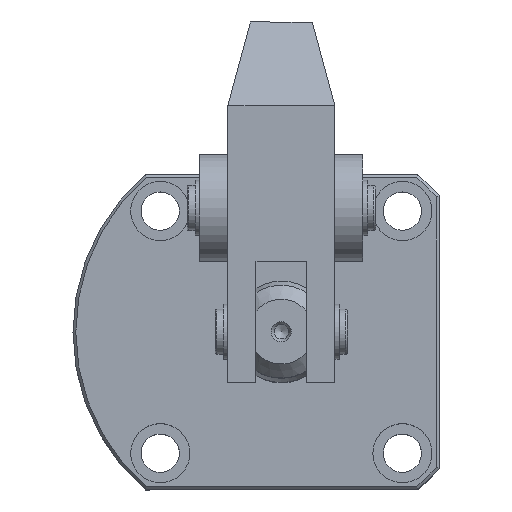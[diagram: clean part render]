
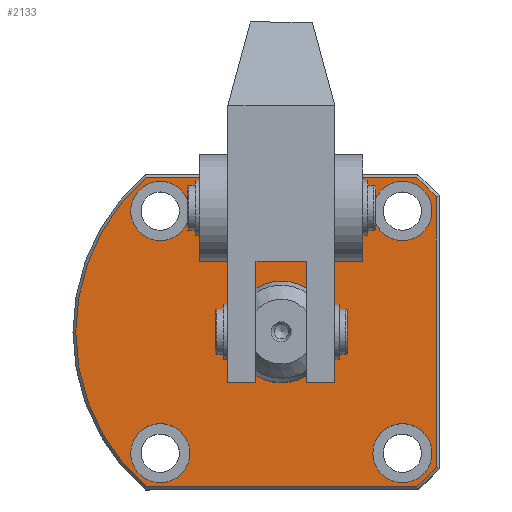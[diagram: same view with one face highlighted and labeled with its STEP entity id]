
A CAD part, top view. The second image highlights one B-rep face of the part: STEP entity #2133.
In plain terms, the highlighted planar face has unit normal (0, 0, 1).
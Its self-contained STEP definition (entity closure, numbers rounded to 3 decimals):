
#134=CIRCLE('',#2370,36.5);
#135=CIRCLE('',#2371,36.5);
#136=CIRCLE('',#2372,36.5);
#137=CIRCLE('',#2373,9.);
#138=CIRCLE('',#2374,5.25);
#139=CIRCLE('',#2375,5.25);
#140=CIRCLE('',#2376,5.25);
#141=CIRCLE('',#2377,5.25);
#359=ORIENTED_EDGE('',*,*,#863,.F.);
#360=ORIENTED_EDGE('',*,*,#850,.T.);
#361=ORIENTED_EDGE('',*,*,#867,.T.);
#362=ORIENTED_EDGE('',*,*,#868,.T.);
#363=ORIENTED_EDGE('',*,*,#869,.T.);
#364=ORIENTED_EDGE('',*,*,#870,.T.);
#365=ORIENTED_EDGE('',*,*,#871,.T.);
#366=ORIENTED_EDGE('',*,*,#872,.T.);
#367=ORIENTED_EDGE('',*,*,#873,.T.);
#368=ORIENTED_EDGE('',*,*,#874,.T.);
#369=ORIENTED_EDGE('',*,*,#875,.T.);
#370=ORIENTED_EDGE('',*,*,#876,.F.);
#371=ORIENTED_EDGE('',*,*,#877,.F.);
#372=ORIENTED_EDGE('',*,*,#878,.F.);
#373=ORIENTED_EDGE('',*,*,#879,.F.);
#850=EDGE_CURVE('',#1114,#1113,#1316,.T.);
#863=EDGE_CURVE('',#1114,#1115,#1327,.T.);
#867=EDGE_CURVE('',#1113,#1117,#1331,.T.);
#868=EDGE_CURVE('',#1117,#1125,#1332,.T.);
#869=EDGE_CURVE('',#1125,#1126,#134,.T.);
#870=EDGE_CURVE('',#1126,#1127,#1333,.T.);
#871=EDGE_CURVE('',#1127,#1128,#135,.T.);
#872=EDGE_CURVE('',#1128,#1129,#1334,.T.);
#873=EDGE_CURVE('',#1129,#1130,#136,.T.);
#874=EDGE_CURVE('',#1130,#1115,#1335,.T.);
#875=EDGE_CURVE('',#1131,#1131,#137,.T.);
#876=EDGE_CURVE('',#1132,#1132,#138,.T.);
#877=EDGE_CURVE('',#1133,#1133,#139,.T.);
#878=EDGE_CURVE('',#1134,#1134,#140,.T.);
#879=EDGE_CURVE('',#1135,#1135,#141,.T.);
#1113=VERTEX_POINT('',#3379);
#1114=VERTEX_POINT('',#3381);
#1115=VERTEX_POINT('',#3385);
#1117=VERTEX_POINT('',#3388);
#1125=VERTEX_POINT('',#3418);
#1126=VERTEX_POINT('',#3420);
#1127=VERTEX_POINT('',#3422);
#1128=VERTEX_POINT('',#3424);
#1129=VERTEX_POINT('',#3426);
#1130=VERTEX_POINT('',#3428);
#1131=VERTEX_POINT('',#3431);
#1132=VERTEX_POINT('',#3433);
#1133=VERTEX_POINT('',#3435);
#1134=VERTEX_POINT('',#3437);
#1135=VERTEX_POINT('',#3439);
#1316=LINE('',#3380,#1429);
#1327=LINE('',#3407,#1440);
#1331=LINE('',#3414,#1444);
#1332=LINE('',#3417,#1445);
#1333=LINE('',#3421,#1446);
#1334=LINE('',#3425,#1447);
#1335=LINE('',#3429,#1448);
#1429=VECTOR('',#2667,1000.);
#1440=VECTOR('',#2690,1000.);
#1444=VECTOR('',#2698,1000.);
#1445=VECTOR('',#2703,1000.);
#1446=VECTOR('',#2706,1000.);
#1447=VECTOR('',#2709,1000.);
#1448=VECTOR('',#2712,1000.);
#1549=EDGE_LOOP('',(#359,#360,#361,#362,#363,#364,#365,#366,#367,#368));
#1550=EDGE_LOOP('',(#369));
#1551=EDGE_LOOP('',(#370));
#1552=EDGE_LOOP('',(#371));
#1553=EDGE_LOOP('',(#372));
#1554=EDGE_LOOP('',(#373));
#1804=FACE_BOUND('',#1549,.T.);
#1805=FACE_BOUND('',#1550,.T.);
#1806=FACE_BOUND('',#1551,.T.);
#1807=FACE_BOUND('',#1552,.T.);
#1808=FACE_BOUND('',#1553,.T.);
#1809=FACE_BOUND('',#1554,.T.);
#2056=PLANE('',#2369);
#2133=ADVANCED_FACE('',(#1804,#1805,#1806,#1807,#1808,#1809),#2056,.T.);
#2369=AXIS2_PLACEMENT_3D('',#3416,#2701,#2702);
#2370=AXIS2_PLACEMENT_3D('',#3419,#2704,#2705);
#2371=AXIS2_PLACEMENT_3D('',#3423,#2707,#2708);
#2372=AXIS2_PLACEMENT_3D('',#3427,#2710,#2711);
#2373=AXIS2_PLACEMENT_3D('',#3430,#2713,#2714);
#2374=AXIS2_PLACEMENT_3D('',#3432,#2715,#2716);
#2375=AXIS2_PLACEMENT_3D('',#3434,#2717,#2718);
#2376=AXIS2_PLACEMENT_3D('',#3436,#2719,#2720);
#2377=AXIS2_PLACEMENT_3D('',#3438,#2721,#2722);
#2667=DIRECTION('',(-1.,0.,0.));
#2690=DIRECTION('',(0.,1.,0.));
#2698=DIRECTION('',(0.,1.,0.));
#2701=DIRECTION('',(0.,0.,1.));
#2702=DIRECTION('',(0.,-1.,0.));
#2703=DIRECTION('',(-1.,0.,0.));
#2704=DIRECTION('',(0.,0.,1.));
#2705=DIRECTION('',(0.,-1.,0.));
#2706=DIRECTION('',(1.,0.,0.));
#2707=DIRECTION('',(0.,0.,1.));
#2708=DIRECTION('',(0.,-1.,0.));
#2709=DIRECTION('',(0.,1.,0.));
#2710=DIRECTION('',(0.,0.,1.));
#2711=DIRECTION('',(0.,-1.,0.));
#2712=DIRECTION('',(-1.,0.,0.));
#2713=DIRECTION('',(0.,0.,-1.));
#2714=DIRECTION('',(0.,-1.,0.));
#2715=DIRECTION('',(0.,0.,1.));
#2716=DIRECTION('',(1.,0.,0.));
#2717=DIRECTION('',(0.,0.,1.));
#2718=DIRECTION('',(1.,0.,0.));
#2719=DIRECTION('',(0.,0.,1.));
#2720=DIRECTION('',(1.,0.,0.));
#2721=DIRECTION('',(0.,0.,1.));
#2722=DIRECTION('',(1.,0.,0.));
#3379=CARTESIAN_POINT('',(-18.75,43.,15.));
#3380=CARTESIAN_POINT('',(-9.25,43.,15.));
#3381=CARTESIAN_POINT('',(0.25,43.,15.));
#3385=CARTESIAN_POINT('',(0.25,56.5,15.));
#3388=CARTESIAN_POINT('',(-18.75,56.5,15.));
#3407=CARTESIAN_POINT('',(0.25,43.,15.));
#3414=CARTESIAN_POINT('',(-18.75,43.,15.));
#3416=CARTESIAN_POINT('',(-9.25,29.,15.));
#3417=CARTESIAN_POINT('',(-9.25,56.5,15.));
#3418=CARTESIAN_POINT('',(-33.25,56.5,15.));
#3419=CARTESIAN_POINT('',(-9.25,29.,15.));
#3420=CARTESIAN_POINT('',(-33.25,1.5,15.));
#3421=CARTESIAN_POINT('',(-9.25,1.5,15.));
#3422=CARTESIAN_POINT('',(14.75,1.5,15.));
#3423=CARTESIAN_POINT('',(-9.25,29.,15.));
#3424=CARTESIAN_POINT('',(18.25,5.,15.));
#3425=CARTESIAN_POINT('',(18.25,29.,15.));
#3426=CARTESIAN_POINT('',(18.25,53.,15.));
#3427=CARTESIAN_POINT('',(-9.25,29.,15.));
#3428=CARTESIAN_POINT('',(14.75,56.5,15.));
#3429=CARTESIAN_POINT('',(-9.25,56.5,15.));
#3430=CARTESIAN_POINT('',(-9.25,29.,15.));
#3431=CARTESIAN_POINT('',(-9.25,20.,15.));
#3432=CARTESIAN_POINT('',(-30.75,7.5,15.));
#3433=CARTESIAN_POINT('',(-25.5,7.5,15.));
#3434=CARTESIAN_POINT('',(12.25,7.5,15.));
#3435=CARTESIAN_POINT('',(17.5,7.5,15.));
#3436=CARTESIAN_POINT('',(12.25,50.5,15.));
#3437=CARTESIAN_POINT('',(17.5,50.5,15.));
#3438=CARTESIAN_POINT('',(-30.75,50.5,15.));
#3439=CARTESIAN_POINT('',(-25.5,50.5,15.));
